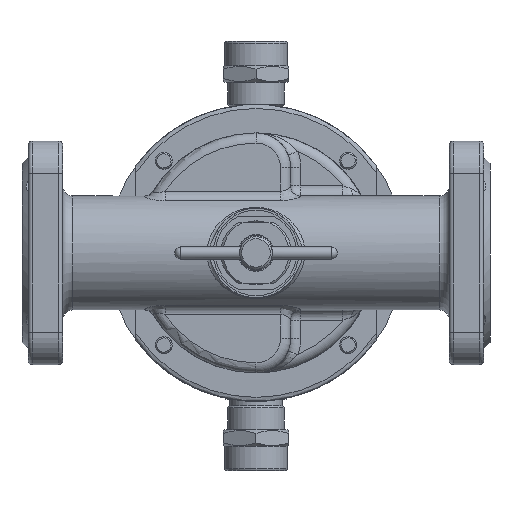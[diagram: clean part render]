
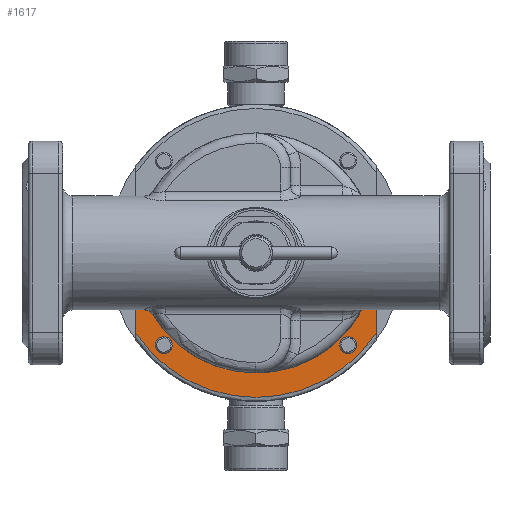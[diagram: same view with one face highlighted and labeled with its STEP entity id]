
A CAD part, front view. The second image highlights one B-rep face of the part: STEP entity #1617.
In plain terms, the highlighted planar face has unit normal (0, -1, 0).
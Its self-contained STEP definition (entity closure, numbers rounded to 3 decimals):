
#1617=ADVANCED_FACE('',(#17337,#17339,#17341),#17343,.F.);
#17337=FACE_BOUND('',#17338,.T.);
#17338=EDGE_LOOP('',(#29818));
#17339=FACE_BOUND('',#17340,.T.);
#17340=EDGE_LOOP('',(#29819));
#17341=FACE_OUTER_BOUND('',#17342,.T.);
#17342=EDGE_LOOP('',(#29820,#29821,#29822,#29823));
#17343=PLANE('',#17344);
#17344=AXIS2_PLACEMENT_3D('',#17345,#17346,#17347);
#17345=CARTESIAN_POINT('',(0.,39.5,0.));
#17346=DIRECTION('',(0.,1.,0.));
#17347=DIRECTION('',(-1.,0.,0.));
#29818=ORIENTED_EDGE('',*,*,#37258,.T.);
#29819=ORIENTED_EDGE('',*,*,#37259,.T.);
#29820=ORIENTED_EDGE('',*,*,#37260,.F.);
#29821=ORIENTED_EDGE('',*,*,#37196,.F.);
#29822=ORIENTED_EDGE('',*,*,#37261,.F.);
#29823=ORIENTED_EDGE('',*,*,#37202,.F.);
#37196=EDGE_CURVE('',#44893,#44895,#44896,.T.);
#37202=EDGE_CURVE('',#44903,#44905,#44906,.T.);
#37258=EDGE_CURVE('',#45000,#45000,#45001,.T.);
#37259=EDGE_CURVE('',#45002,#45002,#45003,.T.);
#37260=EDGE_CURVE('',#44895,#44903,#45004,.T.);
#37261=EDGE_CURVE('',#44905,#44893,#45005,.T.);
#44893=VERTEX_POINT('',#68439);
#44895=VERTEX_POINT('',#68443);
#44896=LINE('',#68444,#68445);
#44903=VERTEX_POINT('',#68514);
#44905=VERTEX_POINT('',#68570);
#44906=LINE('',#68571,#68572);
#45000=VERTEX_POINT('',#69506);
#45001=CIRCLE('',#69507,4.188);
#45002=VERTEX_POINT('',#69511);
#45003=CIRCLE('',#69512,4.188);
#45004=CIRCLE('',#69516,71.);
#45005=CIRCLE('',#69520,59.);
#68439=CARTESIAN_POINT('',(59.,39.5,0.));
#68443=CARTESIAN_POINT('',(59.,39.5,-39.497));
#68444=CARTESIAN_POINT('',(59.,39.5,0.));
#68445=VECTOR('',#68446,1.);
#68446=DIRECTION('',(0.,0.,-1.));
#68514=CARTESIAN_POINT('',(-59.,39.5,-39.497));
#68570=CARTESIAN_POINT('',(-59.,39.5,0.));
#68571=CARTESIAN_POINT('',(-59.,39.5,-39.497));
#68572=VECTOR('',#68573,1.);
#68573=DIRECTION('',(0.,0.,1.));
#69506=CARTESIAN_POINT('',(41.067,39.5,-45.255));
#69507=AXIS2_PLACEMENT_3D('',#69508,#69509,#69510);
#69508=CARTESIAN_POINT('',(45.255,39.5,-45.255));
#69509=DIRECTION('',(0.,1.,0.));
#69510=DIRECTION('',(-1.,0.,0.));
#69511=CARTESIAN_POINT('',(-49.443,39.5,-45.255));
#69512=AXIS2_PLACEMENT_3D('',#69513,#69514,#69515);
#69513=CARTESIAN_POINT('',(-45.255,39.5,-45.255));
#69514=DIRECTION('',(0.,1.,0.));
#69515=DIRECTION('',(-1.,0.,0.));
#69516=AXIS2_PLACEMENT_3D('',#69517,#69518,#69519);
#69517=CARTESIAN_POINT('',(0.,39.5,0.));
#69518=DIRECTION('',(0.,1.,0.));
#69519=DIRECTION('',(0.831,0.,-0.556));
#69520=AXIS2_PLACEMENT_3D('',#69521,#69522,#69523);
#69521=CARTESIAN_POINT('',(0.,39.5,0.));
#69522=DIRECTION('',(0.,-1.,0.));
#69523=DIRECTION('',(-1.,0.,0.));
